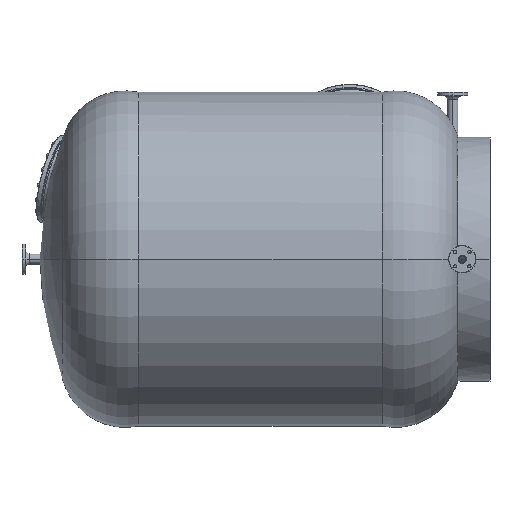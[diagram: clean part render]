
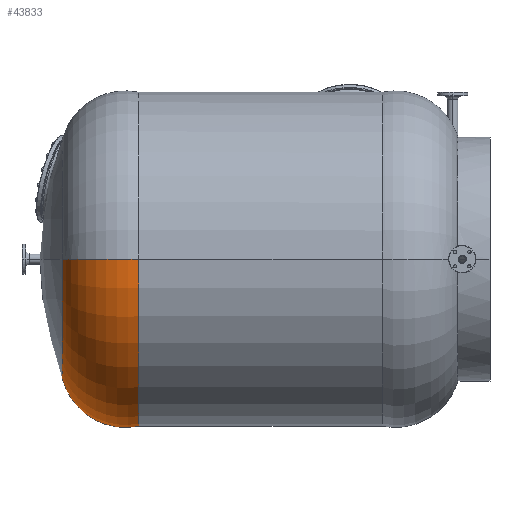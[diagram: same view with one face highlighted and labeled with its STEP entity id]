
A CAD part, left-side view. The second image highlights one B-rep face of the part: STEP entity #43833.
In plain terms, the highlighted toroidal (fillet/blend) face has major radius 562.5 mm and minor radius 354.891 mm.
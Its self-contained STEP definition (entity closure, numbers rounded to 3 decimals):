
#3847 = DIRECTION ( 'NONE',  ( 0., 0., -1. ) ) ;
#5295 = DIRECTION ( 'NONE',  ( 1., 0., 0. ) ) ;
#8038 = AXIS2_PLACEMENT_3D ( 'NONE', #30960, #75381, #110616 ) ;
#9426 = CARTESIAN_POINT ( 'NONE',  ( 665.706, 2331.307, -1313.763 ) ) ;
#9934 = AXIS2_PLACEMENT_3D ( 'NONE', #109573, #75462, #112859 ) ;
#13268 = CIRCLE ( 'NONE', #28063, 648.764 ) ;
#14025 = ORIENTED_EDGE ( 'NONE', *, *, #64510, .F. ) ;
#21154 = CARTESIAN_POINT ( 'NONE',  ( 102.5, 1987.059, -665. ) ) ;
#23265 = EDGE_CURVE ( 'NONE', #78507, #80537, #108788, .T. ) ;
#28063 = AXIS2_PLACEMENT_3D ( 'NONE', #97798, #71238, #46873 ) ;
#28504 = CIRCLE ( 'NONE', #37753, 910. ) ;
#28710 = DIRECTION ( 'NONE',  ( -0.979, -0.203, 0. ) ) ;
#30496 = CARTESIAN_POINT ( 'NONE',  ( 16.236, 2331.307, -665. ) ) ;
#30960 = CARTESIAN_POINT ( 'NONE',  ( 1227.5, 1987.059, -665. ) ) ;
#37646 = ORIENTED_EDGE ( 'NONE', *, *, #89216, .T. ) ;
#37753 = AXIS2_PLACEMENT_3D ( 'NONE', #49060, #66449, #84924 ) ;
#43833 = ADVANCED_FACE ( 'NONE', ( #59540 ), #91594, .T. ) ;
#46873 = DIRECTION ( 'NONE',  ( -1., 0., 0. ) ) ;
#49060 = CARTESIAN_POINT ( 'NONE',  ( 665., 1915.008, -665. ) ) ;
#49699 = CARTESIAN_POINT ( 'NONE',  ( 665., 1987.059, -665. ) ) ;
#52773 = AXIS2_PLACEMENT_3D ( 'NONE', #49699, #67092, #5295 ) ;
#58382 = EDGE_LOOP ( 'NONE', ( #14025, #111686, #104462, #90103, #37646 ) ) ;
#58983 = AXIS2_PLACEMENT_3D ( 'NONE', #21154, #3847, #28710 ) ;
#59540 = FACE_OUTER_BOUND ( 'NONE', #58382, .T. ) ;
#63374 = CIRCLE ( 'NONE', #8038, 354.891 ) ;
#64510 = EDGE_CURVE ( 'NONE', #68783, #113377, #63374, .T. ) ;
#66102 = EDGE_CURVE ( 'NONE', #68783, #78507, #28504, .T. ) ;
#66449 = DIRECTION ( 'NONE',  ( 0., 1., 0. ) ) ;
#67020 = CARTESIAN_POINT ( 'NONE',  ( 1313.764, 2331.307, -665. ) ) ;
#67092 = DIRECTION ( 'NONE',  ( 0., 1., 0. ) ) ;
#68741 = CARTESIAN_POINT ( 'NONE',  ( 1575., 1915.008, -665. ) ) ;
#68783 = VERTEX_POINT ( 'NONE', #68741 ) ;
#71238 = DIRECTION ( 'NONE',  ( 0., -1., 0. ) ) ;
#75381 = DIRECTION ( 'NONE',  ( 0., 0., 1. ) ) ;
#75462 = DIRECTION ( 'NONE',  ( 0., -1., 0. ) ) ;
#78507 = VERTEX_POINT ( 'NONE', #108939 ) ;
#80537 = VERTEX_POINT ( 'NONE', #30496 ) ;
#84924 = DIRECTION ( 'NONE',  ( 1., 0., 0. ) ) ;
#89216 = EDGE_CURVE ( 'NONE', #111004, #113377, #13268, .T. ) ;
#90103 = ORIENTED_EDGE ( 'NONE', *, *, #93761, .T. ) ;
#91594 = TOROIDAL_SURFACE ( 'NONE', #52773, 562.5, 354.891 ) ;
#93761 = EDGE_CURVE ( 'NONE', #80537, #111004, #107621, .T. ) ;
#97798 = CARTESIAN_POINT ( 'NONE',  ( 665., 2331.307, -665. ) ) ;
#104462 = ORIENTED_EDGE ( 'NONE', *, *, #23265, .T. ) ;
#107621 = CIRCLE ( 'NONE', #9934, 648.764 ) ;
#108788 = CIRCLE ( 'NONE', #58983, 354.891 ) ;
#108939 = CARTESIAN_POINT ( 'NONE',  ( -245., 1915.008, -665. ) ) ;
#109573 = CARTESIAN_POINT ( 'NONE',  ( 665., 2331.307, -665. ) ) ;
#110616 = DIRECTION ( 'NONE',  ( 0.979, -0.203, 0. ) ) ;
#111004 = VERTEX_POINT ( 'NONE', #9426 ) ;
#111686 = ORIENTED_EDGE ( 'NONE', *, *, #66102, .T. ) ;
#112859 = DIRECTION ( 'NONE',  ( -1., 0., 0. ) ) ;
#113377 = VERTEX_POINT ( 'NONE', #67020 ) ;
